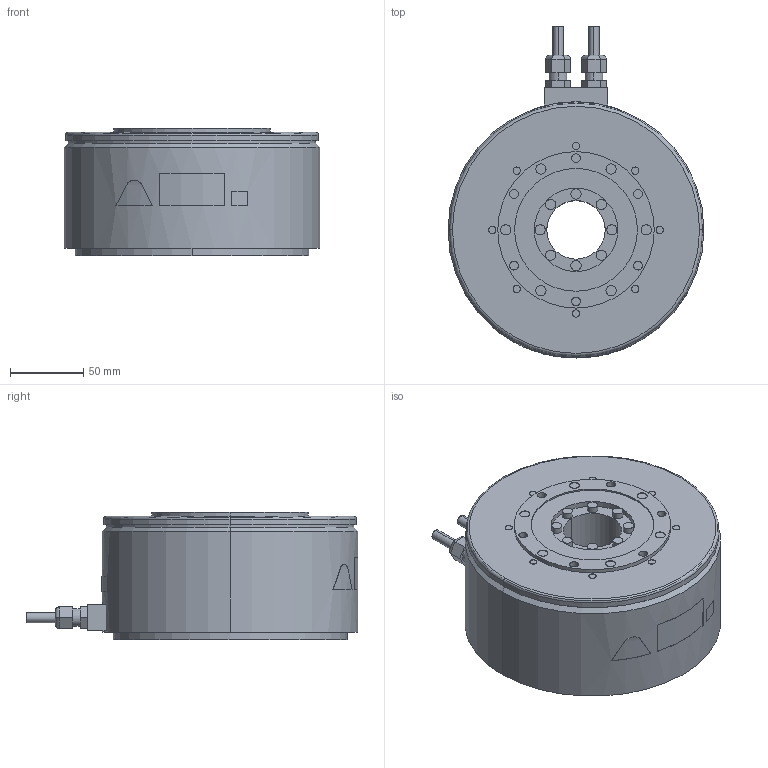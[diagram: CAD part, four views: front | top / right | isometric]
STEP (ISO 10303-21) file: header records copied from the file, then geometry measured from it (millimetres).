
FILE_DESCRIPTION (( 'STEP AP203' ), '1' );
FILE_NAME ('sgm7f_17c_a4_.STEP', '2016-07-24T06:27:08', ( '匠エンジニアリング山之内' ), ( 'TAKUMI-Engniaring' ), 'SwSTEP 2.0', 'SolidWorks 2006303', '' );
FILE_SCHEMA (( 'CONFIG_CONTROL_DESIGN' ));
Length unit declared in the file: millimetre
Products named in the file (1): sgm7f_17c_a4_
Bounding box: 175 x 227 x 87 mm (x, y, z)
Volume: 1906796.7 mm3; surface area: 138457.4 mm2
Topology: 1 solids, 1 shells, 247 faces, 520 edges, 340 vertices
Faces by surface type: cylinder 135, plane 106, cone 4, torus 2
Entity records: 6825 total; most frequent: DIRECTION 1256, CARTESIAN_POINT 1212, ORIENTED_EDGE 1040, EDGE_CURVE 520, AXIS2_PLACEMENT_3D 506, VERTEX_POINT 340, EDGE_LOOP 314, CIRCLE 258
